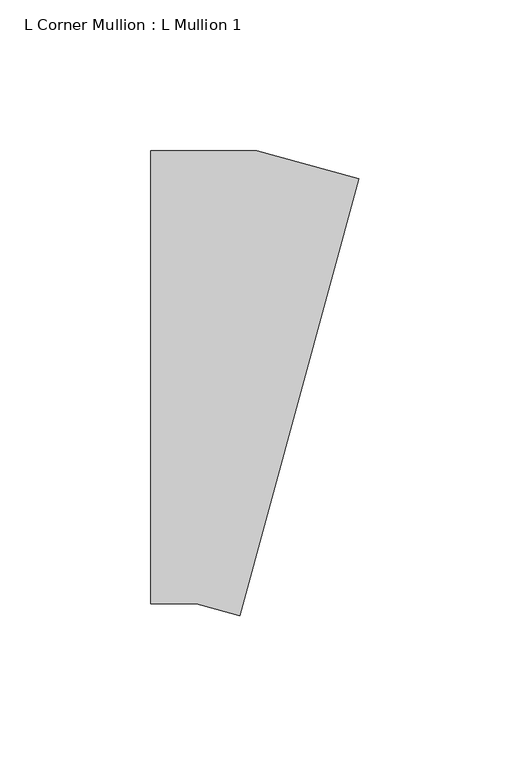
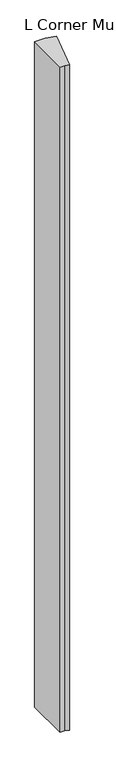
"""IFC4 building model written with IfcOpenShell, lengths in millimetres: member geometry, L Corner Mullion : L Mullion 1."""

from ifc_helpers import new_model, si_unit, frame, origin, place, context, project, spatial, polyline, outline, extrude, source, transform, mapped, element, save


def l_corner_mullion_l_mullion_1_0ebfaa70(model_context):
    return source(origin(), model_context, "Body", "SweptSolid", [
        extrude(outline(polyline([(4.3349019, -78.938005), (-10.0682243, -75.0), (-25.0, -75.0), (-25.0, 75.0), (10.0682243, 75.0), (43.8948815, 65.7513451), (4.3349019, -78.938005)])), frame((0.0, 0.0, -2385.2637869), z_axis=(0.0, 0.0, 1.0), x_axis=(1.0, 0.0, 0.0)), (0.0, 0.0, 1.0), 2385.2637869),
    ])


if __name__ == "__main__":
    model = new_model("IFC4")
    model_context = context("Model", 3, world=origin())
    ifc_project = project(units=[si_unit("LENGTHUNIT", "METRE", prefix="MILLI")], contexts=[model_context])
    site = spatial("IfcSite", under=ifc_project)
    building = spatial("IfcBuilding", under=site)
    placement = place(None, origin())
    l_corner_mullion_l_mullion_1_shape = l_corner_mullion_l_mullion_1_0ebfaa70(model_context)
    element("IfcMember", 1, ObjectType="L Corner Mullion : L Mullion 1", at=placement, inside=building, context=model_context, shape_type="MappedRepresentation", body=[
        mapped(l_corner_mullion_l_mullion_1_shape, transform((0.0, 0.0, 0.0), x_axis=(1.0, 0.0, 0.0), y_axis=(0.0, 1.0, 0.0), z_axis=(0.0, 0.0, 1.0))),
    ])
    save(model, "model.ifc")
